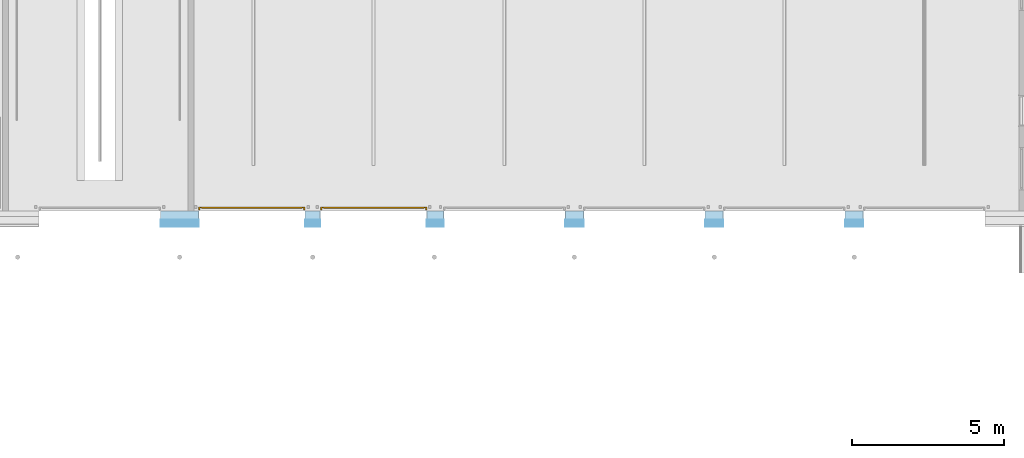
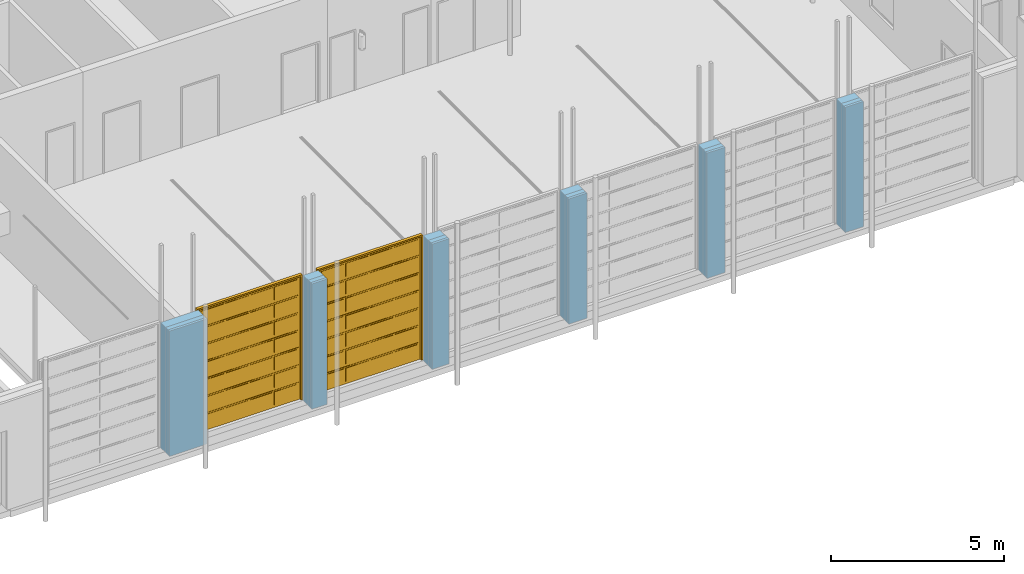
# One storey, part 27 of 112: 2 doors, 7 openings, 1 element without a shape of its own, plus 3 elements that do not belong to this part.
"""IFC2X3 building model written with IfcOpenShell, lengths in millimetres."""

import ifcopenshell
import ifcopenshell.guid

model = None  # the IFC model being written
_history = None  # IfcOwnerHistory: only IFC2X3 demands one
_inside = {}  # id of a spatial element -> (the spatial element, [elements in it])
_under = {}  # id of a project, library or spatial element -> (it, [spatial elements below it])
_declared = {}  # id of a project -> (the project, [libraries it declares])
_typed = {}  # id of a type object -> (the type object, [elements of that type])
_made_of = {}  # id of a material, layer set ... -> (it, [elements and type objects made of it])


def new_model(schema):
    """Start an empty IFC model of exactly this schema.

    Asked for "IFC4X3", IfcOpenShell would pick the latest addendum, in which some entities
    have other attributes; the version numbers below select the first issue.
    IFC2X3 requires an IfcOwnerHistory on every rooted entity: one is made here for all.
    """
    global model, _history
    if schema == "IFC4X3":
        model = ifcopenshell.file(schema_version=(4, 3, 0, 0))
    else:
        model = ifcopenshell.file(schema=schema)
    _inside.clear()
    _under.clear()
    _declared.clear()
    _typed.clear()
    _made_of.clear()
    _history = None
    if model.schema == "IFC2X3":
        org = make("IfcOrganization", Name="unknown")
        user = make(
            "IfcPersonAndOrganization",
            ThePerson=make("IfcPerson", FamilyName="unknown"),
            TheOrganization=org,
        )
        app = make(
            "IfcApplication",
            ApplicationDeveloper=org,
            Version="unknown",
            ApplicationFullName="unknown",
            ApplicationIdentifier="unknown",
        )
        _history = make(
            "IfcOwnerHistory",
            OwningUser=user,
            OwningApplication=app,
            ChangeAction="ADDED",
            CreationDate=0,
        )
    return model


def make(cls, **values):
    """One entity of the class cls with the attributes given. An attribute that is None is left unset."""
    return model.create_entity(
        cls, **{name: value for name, value in values.items() if value is not None}
    )


def entity(cls, *values):
    """Any entity or typed value of the class cls, its attributes in the order of the schema. None: left unset."""
    e = model.create_entity(cls)
    for i, value in enumerate(values):
        if value is not None:
            e[i] = value
    return e


def rooted(cls, **values):
    """An entity with a GlobalId (a new one), such as an element, a storey or a relation."""
    return make(cls, GlobalId=ifcopenshell.guid.new(), OwnerHistory=_history, **values)


def si_unit(unit_type, name, prefix=None):
    """IfcSIUnit, for example si_unit("LENGTHUNIT", "METRE", prefix="MILLI")."""
    return make("IfcSIUnit", UnitType=unit_type, Prefix=prefix, Name=name)


def converted_unit(unit_type, name, factor, base, dimensions=None, offset=None):
    """IfcConversionBasedUnit, such as the inch: factor (a typed value) times the base unit."""
    return make(
        "IfcConversionBasedUnit"
        if offset is None
        else "IfcConversionBasedUnitWithOffset",
        ConversionOffset=offset,
        Dimensions=None
        if dimensions is None
        else entity("IfcDimensionalExponents", *dimensions),
        UnitType=unit_type,
        Name=name,
        ConversionFactor=make(
            "IfcMeasureWithUnit", ValueComponent=factor, UnitComponent=base
        ),
    )


def derived_unit(unit_type, elements):
    """IfcDerivedUnit: a product of units, each with its exponent."""
    return make(
        "IfcDerivedUnit",
        Elements=[
            make("IfcDerivedUnitElement", Unit=unit, Exponent=power)
            for unit, power in elements
        ],
        UnitType=unit_type,
    )


def money_unit(currency):
    """IfcMonetaryUnit."""
    return make("IfcMonetaryUnit", Currency=currency)


def assignment(units):
    """IfcUnitAssignment: the units of a project."""
    return None if units is None else make("IfcUnitAssignment", Units=units)


def point(xyz):
    """IfcCartesianPoint."""
    return None if xyz is None else make("IfcCartesianPoint", Coordinates=xyz)


def direction(xyz):
    """IfcDirection."""
    return None if xyz is None else make("IfcDirection", DirectionRatios=xyz)


def frame(location, z_axis=None, x_axis=None):
    """IfcAxis2Placement3D, a coordinate frame: its origin and axes. An axis left out is left unset."""
    return make(
        "IfcAxis2Placement3D",
        Location=point(location),
        Axis=direction(z_axis),
        RefDirection=direction(x_axis),
    )


def frame_2d(location, x_axis=None):
    """IfcAxis2Placement2D, a coordinate frame in the plane: its origin and x axis."""
    return make(
        "IfcAxis2Placement2D", Location=point(location), RefDirection=direction(x_axis)
    )


def origin_with_axes():
    """The frame at (0, 0, 0) with the z axis (0, 0, 1) and the x axis (1, 0, 0) written out."""
    return frame((0.0, 0.0, 0.0), z_axis=(0.0, 0.0, 1.0), x_axis=(1.0, 0.0, 0.0))


def origin_2d_with_axis():
    """The frame at (0, 0) in the plane with the x axis (1, 0) written out."""
    return frame_2d((0.0, 0.0), x_axis=(1.0, 0.0))


def place(relative_to, where):
    """IfcLocalPlacement: puts the frame where relative to a parent placement (None: the world)."""
    return make(
        "IfcLocalPlacement", PlacementRelTo=relative_to, RelativePlacement=where
    )


def context(
    kind, dimensions, precision=None, world=None, true_north=None, identifier=None
):
    """IfcGeometricRepresentationContext, for example the 3D "Model" context."""
    return make(
        "IfcGeometricRepresentationContext",
        ContextIdentifier=identifier,
        ContextType=kind,
        CoordinateSpaceDimension=dimensions,
        Precision=precision,
        WorldCoordinateSystem=world,
        TrueNorth=true_north,
    )


def subcontext(parent, identifier, kind, view, scale=None):
    """IfcGeometricRepresentationSubContext, for example "Body" below "Model"."""
    return make(
        "IfcGeometricRepresentationSubContext",
        ContextIdentifier=identifier,
        ContextType=kind,
        ParentContext=parent,
        TargetScale=scale,
        TargetView=view,
    )


def project(units=None, contexts=None):
    """IfcProject with its units and contexts."""
    return rooted(
        "IfcProject",
        Name="project",
        RepresentationContexts=contexts,
        UnitsInContext=assignment(units),
    )


def spatial(cls, under=None, at=None, **own):
    """A site, building, storey or space (cls), placed at a placement, below another one or the project."""
    s = rooted(cls, ObjectPlacement=at, **own)
    if under is not None:
        _under.setdefault(under.id(), (under, []))[1].append(s)
    return s


def polyline(points):
    """IfcPolyline through the points."""
    return make("IfcPolyline", Points=[point(p) for p in points])


def profile(cls, at=None, kind="AREA", **sizes):
    """A parametric profile (cls). Its sizes go by their IFC names, for example OverallWidth=200.0."""
    return make(cls, ProfileType=kind, Position=at, **sizes)


def rectangle(**sizes):
    """IfcRectangleProfileDef."""
    return profile("IfcRectangleProfileDef", **sizes)


def outline(outer, holes=None, kind="AREA"):
    """IfcArbitraryClosedProfileDef: a profile drawn as a closed curve; with holes, ...WithVoids."""
    if holes is None:
        return make("IfcArbitraryClosedProfileDef", ProfileType=kind, OuterCurve=outer)
    return make(
        "IfcArbitraryProfileDefWithVoids",
        ProfileType=kind,
        OuterCurve=outer,
        InnerCurves=holes,
    )


def extrude(swept, where, along, depth):
    """IfcExtrudedAreaSolid: the profile swept, set in the frame where, extruded along a direction by depth."""
    return make(
        "IfcExtrudedAreaSolid",
        SweptArea=swept,
        Position=where,
        ExtrudedDirection=direction(along),
        Depth=depth,
    )


def faces_of(points, faces, orient=None, outer=None):
    """IfcFace entities. A face is a list of loops; a loop is a list of indices into points, from 0.

    orient and outer hold one flag for each loop. By default every Orientation is true, the
    first loop of a face is its IfcFaceOuterBound and the others are IfcFaceBound.
    """
    made = []
    for i, loops in enumerate(faces):
        bounds = []
        for j, loop in enumerate(loops):
            is_outer = j == 0 if outer is None else outer[i][j]
            bounds.append(
                make(
                    "IfcFaceOuterBound" if is_outer else "IfcFaceBound",
                    Bound=make("IfcPolyLoop", Polygon=[points[k] for k in loop]),
                    Orientation=True if orient is None else orient[i][j],
                )
            )
        made.append(make("IfcFace", Bounds=bounds))
    return made


def faceted_brep(points, faces, orient=None, outer=None, voids=None):
    """IfcFacetedBrep: a solid bounded by flat faces; with voids (closed shells), ...WithVoids."""
    shared = [point(p) for p in points]
    hull = make("IfcClosedShell", CfsFaces=faces_of(shared, faces, orient, outer))
    if voids is None:
        return make("IfcFacetedBrep", Outer=hull)
    return make(
        "IfcFacetedBrepWithVoids",
        Outer=hull,
        Voids=[
            make(cls, CfsFaces=faces_of(shared, fs, o, b)) for cls, fs, o, b in voids
        ],
    )


def shape(context_of_items, identifier, shape_type, items):
    """IfcShapeRepresentation: the items that make up one representation, for example the "Body"."""
    return make(
        "IfcShapeRepresentation",
        ContextOfItems=context_of_items,
        RepresentationIdentifier=identifier,
        RepresentationType=shape_type,
        Items=items,
    )


def source(mapping_origin, context_of_items, identifier, shape_type, items):
    """IfcRepresentationMap: a shape defined once, which mapped items show again and again."""
    return make(
        "IfcRepresentationMap",
        MappingOrigin=mapping_origin,
        MappedRepresentation=shape(context_of_items, identifier, shape_type, items),
    )


def transform(
    local_origin,
    x_axis=None,
    y_axis=None,
    z_axis=None,
    scale=None,
    scale2=None,
    scale3=None,
    uniform=True,
):
    """IfcCartesianTransformationOperator3D, or its non-uniform kind. x_axis, y_axis, z_axis: its Axis1, 2, 3."""
    if uniform:
        return make(
            "IfcCartesianTransformationOperator3D",
            Axis1=direction(x_axis),
            Axis2=direction(y_axis),
            LocalOrigin=point(local_origin),
            Scale=scale,
            Axis3=direction(z_axis),
        )
    return make(
        "IfcCartesianTransformationOperator3DnonUniform",
        Axis1=direction(x_axis),
        Axis2=direction(y_axis),
        LocalOrigin=point(local_origin),
        Scale=scale,
        Axis3=direction(z_axis),
        Scale2=scale2,
        Scale3=scale3,
    )


def mapped(mapping_source, mapping_target):
    """IfcMappedItem: shows the shape of a source again, moved by a transform."""
    return make(
        "IfcMappedItem", MappingSource=mapping_source, MappingTarget=mapping_target
    )


def material(Name=None, Category=None):
    """IfcMaterial."""
    return make("IfcMaterial", Name=Name, Category=Category)


def made_of(thing, what):
    """Note that an element or type object is made of a material, layer set ...; save() writes the relation."""
    if what is not None:
        _made_of.setdefault(what.id(), (what, []))[1].append(thing)
    return thing


def type_object(cls, material=None, **own):
    """A type object (cls), such as IfcWallType, which elements share."""
    return made_of(rooted(cls, **own), material)


def element(
    cls,
    number,
    at=None,
    inside=None,
    cuts=None,
    type_object=None,
    material=None,
    context=None,
    identifier="Body",
    shape_type=None,
    held_by="IfcProductDefinitionShape",
    body=None,
    shapes=None,
    **own,
):
    """One element of the class cls, such as IfcWall. Its Tag is "e" and its number.

    at: its placement. inside: the storey or other place that contains it. cuts: it is an
    opening in that element (IfcRelVoidsElement). A single representation is given by context,
    identifier, shape_type and body (its items); several are given by shapes. held_by: the class
    of the entity that holds the representations. save() writes the other relations.
    """
    e = rooted(cls, Tag="e%d" % number, ObjectPlacement=at, **own)
    if body is not None:
        shapes = [shape(context, identifier, shape_type, body)]
    if shapes is not None:
        e.Representation = make(held_by, Representations=shapes)
    if inside is not None:
        _inside.setdefault(inside.id(), (inside, []))[1].append(e)
    if cuts is not None:
        rooted(
            "IfcRelVoidsElement", RelatingBuildingElement=cuts, RelatedOpeningElement=e
        )
    if type_object is not None:
        _typed.setdefault(type_object.id(), (type_object, []))[1].append(e)
    return made_of(e, material)


def fill(opening, filler):
    """IfcRelFillsElement: the door or window that sits in an opening."""
    return rooted(
        "IfcRelFillsElement",
        RelatingOpeningElement=opening,
        RelatedBuildingElement=filler,
    )


def aggregate(whole, parts):
    """IfcRelAggregates: a whole, such as a stair, and the parts it consists of."""
    return rooted("IfcRelAggregates", RelatingObject=whole, RelatedObjects=parts)


def save(model, path):
    """Write the relations noted so far, then the file.

    IfcRelAggregates (storeys below a building ...), IfcRelContainedInSpatialStructure (elements
    in a storey), IfcRelDefinesByType, IfcRelAssociatesMaterial and IfcRelDeclares: one each for
    every whole, place, type object, material and project.
    """
    for whole, parts in _under.values():
        aggregate(whole, parts)
    for where, things in _inside.values():
        rooted(
            "IfcRelContainedInSpatialStructure",
            RelatedElements=things,
            RelatingStructure=where,
        )
    for kind, things in _typed.values():
        rooted("IfcRelDefinesByType", RelatedObjects=things, RelatingType=kind)
    for what, things in _made_of.values():
        rooted("IfcRelAssociatesMaterial", RelatedObjects=things, RelatingMaterial=what)
    for by, libraries in _declared.values():
        rooted("IfcRelDeclares", RelatingContext=by, RelatedDefinitions=libraries)
    model.write(path)


model = new_model("IFC2X3")

# Units and contexts
model_context = context("Model", 3, precision=0.01, world=origin_with_axes(), true_north=direction((0.0, 1.0)))
body_context = subcontext(model_context, "Body", "Model", "MODEL_VIEW")
ifc_project = project(units=[si_unit("LENGTHUNIT", "METRE", prefix="MILLI"), si_unit("AREAUNIT", "SQUARE_METRE"), si_unit("VOLUMEUNIT", "CUBIC_METRE"), converted_unit("PLANEANGLEUNIT", "DEGREE", entity("IfcPlaneAngleMeasure", 0.0174532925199), si_unit("PLANEANGLEUNIT", "RADIAN"), dimensions=[0, 0, 0, 0, 0, 0, 0]), si_unit("SOLIDANGLEUNIT", "STERADIAN"), money_unit("EUR"), converted_unit("TIMEUNIT", "Year", entity("IfcTimeMeasure", 31556926.0), si_unit("TIMEUNIT", "SECOND"), dimensions=[0, 0, 1, 0, 0, 0, 0]), si_unit("MASSUNIT", "GRAM", prefix="KILO"), si_unit("THERMODYNAMICTEMPERATUREUNIT", "DEGREE_CELSIUS"), si_unit("LUMINOUSINTENSITYUNIT", "LUMEN"), si_unit("ENERGYUNIT", "JOULE", prefix="MEGA"), derived_unit("THERMALCONDUCTANCEUNIT", [(si_unit("POWERUNIT", "WATT"), 1), (si_unit("LENGTHUNIT", "METRE"), -1), (si_unit("THERMODYNAMICTEMPERATUREUNIT", "KELVIN"), -1)]), derived_unit("SPECIFICHEATCAPACITYUNIT", [(si_unit("ENERGYUNIT", "JOULE"), 1), (si_unit("MASSUNIT", "GRAM", prefix="KILO"), -1), (si_unit("THERMODYNAMICTEMPERATUREUNIT", "KELVIN"), -1)]), derived_unit("MASSDENSITYUNIT", [(si_unit("MASSUNIT", "GRAM", prefix="KILO"), 1), (si_unit("VOLUMEUNIT", "CUBIC_METRE"), -1)])], contexts=[model_context])

# Site, building, storey
site_placement = place(None, origin_with_axes())
site = spatial("IfcSite", under=ifc_project, at=site_placement, Name="Politse- ja Piirivalveameti ning Päästeameti ühishoone", CompositionType="ELEMENT")
building_placement = place(site_placement, origin_with_axes())
building = spatial("IfcBuilding", under=site, at=building_placement, Name="Politse- ja Piirivalveameti ning Päästeameti ühishoone", CompositionType="ELEMENT")
storey_placement = place(building_placement, origin_with_axes())
storey = spatial("IfcBuildingStorey", under=building, at=storey_placement, Name="Esimene korrus", CompositionType="ELEMENT", Elevation=0.0)

# Door
door_style = type_object("IfcDoorStyle", Name="Vertical Sliding Garage Door 23", ConstructionType="NOTDEFINED", OperationType="ROLLINGUP", ParameterTakesPrecedence=False, Sizeable=False)
shared_shape = source(origin_with_axes(), body_context, "Body", "Brep", [
    faceted_brep([(1750.0, 0.0, 0.0), (1750.0, -100.0, 0.0), (1700.0, -100.0, 0.0), (1700.0, 0.0, 0.0), (1750.0, 0.0, 4350.0), (1750.0, -100.0, 4350.0), (1700.0, -100.0, 4350.0), (1700.0, 0.0, 4350.0)], [[[0, 1, 2, 3]], [[4, 5, 1, 0]], [[1, 5, 6, 2]], [[3, 2, 6, 7]], [[0, 3, 7, 4]], [[7, 6, 5, 4]]]),
    faceted_brep([(-1750.0, 0.0, 0.0), (-1750.0, -100.0, 0.0), (-1750.0, -100.0, 4350.0), (-1750.0, 0.0, 4350.0), (-1700.0, 0.0, 0.0), (-1700.0, -100.0, 0.0), (-1700.0, -100.0, 4350.0), (-1700.0, 0.0, 4350.0)], [[[0, 1, 2, 3]], [[4, 5, 1, 0]], [[1, 5, 6, 2]], [[3, 2, 6, 7]], [[0, 3, 7, 4]], [[7, 6, 5, 4]]]),
    faceted_brep([(1750.0, 0.0, 4400.0), (1750.0, -100.0, 4400.0), (1750.0, -100.0, 4350.0), (1750.0, 0.0, 4350.0), (-1750.0, 0.0, 4400.0), (-1750.0, -100.0, 4400.0), (-1750.0, -100.0, 4350.0), (-1700.0, -100.0, 4350.0), (1700.0, -100.0, 4350.0), (1700.0, 0.0, 4350.0), (-1700.0, 0.0, 4350.0), (-1750.0, 0.0, 4350.0)], [[[0, 1, 2, 3]], [[4, 5, 1, 0]], [[1, 5, 6, 7, 8, 2]], [[3, 2, 8, 9]], [[0, 3, 9, 10, 11, 4]], [[11, 6, 5, 4]], [[10, 7, 6, 11]], [[9, 8, 7, 10]]]),
    faceted_brep([(-1700.0, -5.5, 0.0), (1700.0, -5.5, 0.0), (1700.0, -35.5, 0.0), (-1700.0, -35.5, 0.0), (-1700.0, -5.5, 4350.0), (1700.0, -5.5, 4350.0), (1700.0, -35.5, 4350.0), (-1700.0, -35.5, 4350.0)], [[[0, 1, 2, 3]], [[0, 4, 5, 1]], [[1, 5, 6, 2]], [[3, 2, 6, 7]], [[4, 0, 3, 7]], [[5, 4, 7, 6]]]),
    faceted_brep([(1650.0, -35.5, 50.0), (-1650.0, -35.5, 50.0), (-1650.0, -35.5, 614.285714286), (1650.0, -35.5, 614.285714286), (1650.0, -45.5, 50.0), (-1650.0, -45.5, 50.0), (-1650.0, -45.5, 614.285714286), (1650.0, -45.5, 614.285714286)], [[[0, 1, 2, 3]], [[1, 0, 4, 5]], [[2, 1, 5, 6]], [[3, 2, 6, 7]], [[0, 3, 7, 4]], [[5, 4, 7, 6]]]),
    faceted_brep([(-837.5, -45.5, 100.0), (-1600.0, -45.5, 100.0), (-1600.0, -45.5, 564.285714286), (-837.5, -45.5, 564.285714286), (-837.5, -55.5, 100.0), (-1600.0, -55.5, 100.0), (-1600.0, -55.5, 564.285714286), (-837.5, -55.5, 564.285714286)], [[[0, 1, 2, 3]], [[1, 0, 4, 5]], [[2, 1, 5, 6]], [[3, 2, 6, 7]], [[0, 3, 7, 4]], [[5, 4, 7, 6]]]),
    faceted_brep([(-25.0, -45.5, 100.0), (-787.5, -45.5, 100.0), (-787.5, -45.5, 564.285714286), (-25.0, -45.5, 564.285714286), (-25.0, -55.5, 100.0), (-787.5, -55.5, 100.0), (-787.5, -55.5, 564.285714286), (-25.0, -55.5, 564.285714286)], [[[0, 1, 2, 3]], [[1, 0, 4, 5]], [[2, 1, 5, 6]], [[3, 2, 6, 7]], [[0, 3, 7, 4]], [[5, 4, 7, 6]]]),
    faceted_brep([(787.5, -45.5, 100.0), (25.0, -45.5, 100.0), (25.0, -45.5, 564.285714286), (787.5, -45.5, 564.285714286), (787.5, -55.5, 100.0), (25.0, -55.5, 100.0), (25.0, -55.5, 564.285714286), (787.5, -55.5, 564.285714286)], [[[0, 1, 2, 3]], [[1, 0, 4, 5]], [[2, 1, 5, 6]], [[3, 2, 6, 7]], [[0, 3, 7, 4]], [[5, 4, 7, 6]]]),
    faceted_brep([(1600.0, -45.5, 100.0), (837.5, -45.5, 100.0), (837.5, -45.5, 564.285714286), (1600.0, -45.5, 564.285714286), (1600.0, -55.5, 100.0), (837.5, -55.5, 100.0), (837.5, -55.5, 564.285714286), (1600.0, -55.5, 564.285714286)], [[[0, 1, 2, 3]], [[1, 0, 4, 5]], [[2, 1, 5, 6]], [[3, 2, 6, 7]], [[0, 3, 7, 4]], [[5, 4, 7, 6]]]),
    faceted_brep([(1650.0, -35.5, 664.285714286), (-1650.0, -35.5, 664.285714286), (-1650.0, -35.5, 1228.57142857), (1650.0, -35.5, 1228.57142857), (1650.0, -45.5, 664.285714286), (-1650.0, -45.5, 664.285714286), (-1650.0, -45.5, 1228.57142857), (1650.0, -45.5, 1228.57142857)], [[[0, 1, 2, 3]], [[1, 0, 4, 5]], [[2, 1, 5, 6]], [[3, 2, 6, 7]], [[0, 3, 7, 4]], [[5, 4, 7, 6]]]),
    faceted_brep([(-837.5, -45.5, 714.285714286), (-1600.0, -45.5, 714.285714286), (-1600.0, -45.5, 1178.57142857), (-837.5, -45.5, 1178.57142857), (-837.5, -55.5, 714.285714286), (-1600.0, -55.5, 714.285714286), (-1600.0, -55.5, 1178.57142857), (-837.5, -55.5, 1178.57142857)], [[[0, 1, 2, 3]], [[1, 0, 4, 5]], [[2, 1, 5, 6]], [[3, 2, 6, 7]], [[0, 3, 7, 4]], [[5, 4, 7, 6]]]),
    faceted_brep([(-25.0, -45.5, 714.285714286), (-787.5, -45.5, 714.285714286), (-787.5, -45.5, 1178.57142857), (-25.0, -45.5, 1178.57142857), (-25.0, -55.5, 714.285714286), (-787.5, -55.5, 714.285714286), (-787.5, -55.5, 1178.57142857), (-25.0, -55.5, 1178.57142857)], [[[0, 1, 2, 3]], [[1, 0, 4, 5]], [[2, 1, 5, 6]], [[3, 2, 6, 7]], [[0, 3, 7, 4]], [[5, 4, 7, 6]]]),
    faceted_brep([(787.5, -45.5, 714.285714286), (25.0, -45.5, 714.285714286), (25.0, -45.5, 1178.57142857), (787.5, -45.5, 1178.57142857), (787.5, -55.5, 714.285714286), (25.0, -55.5, 714.285714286), (25.0, -55.5, 1178.57142857), (787.5, -55.5, 1178.57142857)], [[[0, 1, 2, 3]], [[1, 0, 4, 5]], [[2, 1, 5, 6]], [[3, 2, 6, 7]], [[0, 3, 7, 4]], [[5, 4, 7, 6]]]),
    faceted_brep([(1600.0, -45.5, 714.285714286), (837.5, -45.5, 714.285714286), (837.5, -45.5, 1178.57142857), (1600.0, -45.5, 1178.57142857), (1600.0, -55.5, 714.285714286), (837.5, -55.5, 714.285714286), (837.5, -55.5, 1178.57142857), (1600.0, -55.5, 1178.57142857)], [[[0, 1, 2, 3]], [[1, 0, 4, 5]], [[2, 1, 5, 6]], [[3, 2, 6, 7]], [[0, 3, 7, 4]], [[5, 4, 7, 6]]]),
    faceted_brep([(1650.0, -35.5, 1278.57142857), (-1650.0, -35.5, 1278.57142857), (-1650.0, -35.5, 1842.85714286), (1650.0, -35.5, 1842.85714286), (1650.0, -45.5, 1278.57142857), (-1650.0, -45.5, 1278.57142857), (-1650.0, -45.5, 1842.85714286), (1650.0, -45.5, 1842.85714286)], [[[0, 1, 2, 3]], [[1, 0, 4, 5]], [[2, 1, 5, 6]], [[3, 2, 6, 7]], [[0, 3, 7, 4]], [[5, 4, 7, 6]]]),
    faceted_brep([(-837.5, -45.5, 1328.57142857), (-1600.0, -45.5, 1328.57142857), (-1600.0, -45.5, 1792.85714286), (-837.5, -45.5, 1792.85714286), (-837.5, -55.5, 1328.57142857), (-1600.0, -55.5, 1328.57142857), (-1600.0, -55.5, 1792.85714286), (-837.5, -55.5, 1792.85714286)], [[[0, 1, 2, 3]], [[1, 0, 4, 5]], [[2, 1, 5, 6]], [[3, 2, 6, 7]], [[0, 3, 7, 4]], [[5, 4, 7, 6]]]),
    faceted_brep([(-25.0, -45.5, 1328.57142857), (-787.5, -45.5, 1328.57142857), (-787.5, -45.5, 1792.85714286), (-25.0, -45.5, 1792.85714286), (-25.0, -55.5, 1328.57142857), (-787.5, -55.5, 1328.57142857), (-787.5, -55.5, 1792.85714286), (-25.0, -55.5, 1792.85714286)], [[[0, 1, 2, 3]], [[1, 0, 4, 5]], [[2, 1, 5, 6]], [[3, 2, 6, 7]], [[0, 3, 7, 4]], [[5, 4, 7, 6]]]),
    faceted_brep([(787.5, -45.5, 1328.57142857), (25.0, -45.5, 1328.57142857), (25.0, -45.5, 1792.85714286), (787.5, -45.5, 1792.85714286), (787.5, -55.5, 1328.57142857), (25.0, -55.5, 1328.57142857), (25.0, -55.5, 1792.85714286), (787.5, -55.5, 1792.85714286)], [[[0, 1, 2, 3]], [[1, 0, 4, 5]], [[2, 1, 5, 6]], [[3, 2, 6, 7]], [[0, 3, 7, 4]], [[5, 4, 7, 6]]]),
    faceted_brep([(1600.0, -45.5, 1328.57142857), (837.5, -45.5, 1328.57142857), (837.5, -45.5, 1792.85714286), (1600.0, -45.5, 1792.85714286), (1600.0, -55.5, 1328.57142857), (837.5, -55.5, 1328.57142857), (837.5, -55.5, 1792.85714286), (1600.0, -55.5, 1792.85714286)], [[[0, 1, 2, 3]], [[1, 0, 4, 5]], [[2, 1, 5, 6]], [[3, 2, 6, 7]], [[0, 3, 7, 4]], [[5, 4, 7, 6]]]),
    faceted_brep([(1650.0, -35.5, 1892.85714286), (-1650.0, -35.5, 1892.85714286), (-1650.0, -35.5, 2457.14285714), (1650.0, -35.5, 2457.14285714), (1650.0, -45.5, 1892.85714286), (-1650.0, -45.5, 1892.85714286), (-1650.0, -45.5, 2457.14285714), (1650.0, -45.5, 2457.14285714)], [[[0, 1, 2, 3]], [[1, 0, 4, 5]], [[2, 1, 5, 6]], [[3, 2, 6, 7]], [[0, 3, 7, 4]], [[5, 4, 7, 6]]]),
    faceted_brep([(-837.5, -45.5, 1942.85714286), (-1600.0, -45.5, 1942.85714286), (-1600.0, -45.5, 2407.14285714), (-837.5, -45.5, 2407.14285714), (-837.5, -55.5, 1942.85714286), (-1600.0, -55.5, 1942.85714286), (-1600.0, -55.5, 2407.14285714), (-837.5, -55.5, 2407.14285714)], [[[0, 1, 2, 3]], [[1, 0, 4, 5]], [[2, 1, 5, 6]], [[3, 2, 6, 7]], [[0, 3, 7, 4]], [[5, 4, 7, 6]]]),
    faceted_brep([(-25.0, -45.5, 1942.85714286), (-787.5, -45.5, 1942.85714286), (-787.5, -45.5, 2407.14285714), (-25.0, -45.5, 2407.14285714), (-25.0, -55.5, 1942.85714286), (-787.5, -55.5, 1942.85714286), (-787.5, -55.5, 2407.14285714), (-25.0, -55.5, 2407.14285714)], [[[0, 1, 2, 3]], [[1, 0, 4, 5]], [[2, 1, 5, 6]], [[3, 2, 6, 7]], [[0, 3, 7, 4]], [[5, 4, 7, 6]]]),
    faceted_brep([(787.5, -45.5, 1942.85714286), (25.0, -45.5, 1942.85714286), (25.0, -45.5, 2407.14285714), (787.5, -45.5, 2407.14285714), (787.5, -55.5, 1942.85714286), (25.0, -55.5, 1942.85714286), (25.0, -55.5, 2407.14285714), (787.5, -55.5, 2407.14285714)], [[[0, 1, 2, 3]], [[1, 0, 4, 5]], [[2, 1, 5, 6]], [[3, 2, 6, 7]], [[0, 3, 7, 4]], [[5, 4, 7, 6]]]),
    faceted_brep([(1600.0, -45.5, 1942.85714286), (837.5, -45.5, 1942.85714286), (837.5, -45.5, 2407.14285714), (1600.0, -45.5, 2407.14285714), (1600.0, -55.5, 1942.85714286), (837.5, -55.5, 1942.85714286), (837.5, -55.5, 2407.14285714), (1600.0, -55.5, 2407.14285714)], [[[0, 1, 2, 3]], [[1, 0, 4, 5]], [[2, 1, 5, 6]], [[3, 2, 6, 7]], [[0, 3, 7, 4]], [[5, 4, 7, 6]]]),
    faceted_brep([(1650.0, -35.5, 2507.14285714), (-1650.0, -35.5, 2507.14285714), (-1650.0, -35.5, 3071.42857143), (1650.0, -35.5, 3071.42857143), (1650.0, -45.5, 2507.14285714), (-1650.0, -45.5, 2507.14285714), (-1650.0, -45.5, 3071.42857143), (1650.0, -45.5, 3071.42857143)], [[[0, 1, 2, 3]], [[1, 0, 4, 5]], [[2, 1, 5, 6]], [[3, 2, 6, 7]], [[0, 3, 7, 4]], [[5, 4, 7, 6]]]),
    faceted_brep([(-837.5, -45.5, 2557.14285714), (-1600.0, -45.5, 2557.14285714), (-1600.0, -45.5, 3021.42857143), (-837.5, -45.5, 3021.42857143), (-837.5, -55.5, 2557.14285714), (-1600.0, -55.5, 2557.14285714), (-1600.0, -55.5, 3021.42857143), (-837.5, -55.5, 3021.42857143)], [[[0, 1, 2, 3]], [[1, 0, 4, 5]], [[2, 1, 5, 6]], [[3, 2, 6, 7]], [[0, 3, 7, 4]], [[5, 4, 7, 6]]]),
    faceted_brep([(-25.0, -45.5, 2557.14285714), (-787.5, -45.5, 2557.14285714), (-787.5, -45.5, 3021.42857143), (-25.0, -45.5, 3021.42857143), (-25.0, -55.5, 2557.14285714), (-787.5, -55.5, 2557.14285714), (-787.5, -55.5, 3021.42857143), (-25.0, -55.5, 3021.42857143)], [[[0, 1, 2, 3]], [[1, 0, 4, 5]], [[2, 1, 5, 6]], [[3, 2, 6, 7]], [[0, 3, 7, 4]], [[5, 4, 7, 6]]]),
    faceted_brep([(787.5, -45.5, 2557.14285714), (25.0, -45.5, 2557.14285714), (25.0, -45.5, 3021.42857143), (787.5, -45.5, 3021.42857143), (787.5, -55.5, 2557.14285714), (25.0, -55.5, 2557.14285714), (25.0, -55.5, 3021.42857143), (787.5, -55.5, 3021.42857143)], [[[0, 1, 2, 3]], [[1, 0, 4, 5]], [[2, 1, 5, 6]], [[3, 2, 6, 7]], [[0, 3, 7, 4]], [[5, 4, 7, 6]]]),
    faceted_brep([(1600.0, -45.5, 2557.14285714), (837.5, -45.5, 2557.14285714), (837.5, -45.5, 3021.42857143), (1600.0, -45.5, 3021.42857143), (1600.0, -55.5, 2557.14285714), (837.5, -55.5, 2557.14285714), (837.5, -55.5, 3021.42857143), (1600.0, -55.5, 3021.42857143)], [[[0, 1, 2, 3]], [[1, 0, 4, 5]], [[2, 1, 5, 6]], [[3, 2, 6, 7]], [[0, 3, 7, 4]], [[5, 4, 7, 6]]]),
    faceted_brep([(1650.0, -35.5, 3121.42857143), (-1650.0, -35.5, 3121.42857143), (-1650.0, -35.5, 3685.71428571), (1650.0, -35.5, 3685.71428571), (1650.0, -45.5, 3121.42857143), (-1650.0, -45.5, 3121.42857143), (-1650.0, -45.5, 3685.71428571), (1650.0, -45.5, 3685.71428571)], [[[0, 1, 2, 3]], [[1, 0, 4, 5]], [[2, 1, 5, 6]], [[3, 2, 6, 7]], [[0, 3, 7, 4]], [[5, 4, 7, 6]]]),
    faceted_brep([(-837.5, -45.5, 3171.42857143), (-1600.0, -45.5, 3171.42857143), (-1600.0, -45.5, 3635.71428571), (-837.5, -45.5, 3635.71428571), (-837.5, -55.5, 3171.42857143), (-1600.0, -55.5, 3171.42857143), (-1600.0, -55.5, 3635.71428571), (-837.5, -55.5, 3635.71428571)], [[[0, 1, 2, 3]], [[1, 0, 4, 5]], [[2, 1, 5, 6]], [[3, 2, 6, 7]], [[0, 3, 7, 4]], [[5, 4, 7, 6]]]),
    faceted_brep([(-25.0, -45.5, 3171.42857143), (-787.5, -45.5, 3171.42857143), (-787.5, -45.5, 3635.71428571), (-25.0, -45.5, 3635.71428571), (-25.0, -55.5, 3171.42857143), (-787.5, -55.5, 3171.42857143), (-787.5, -55.5, 3635.71428571), (-25.0, -55.5, 3635.71428571)], [[[0, 1, 2, 3]], [[1, 0, 4, 5]], [[2, 1, 5, 6]], [[3, 2, 6, 7]], [[0, 3, 7, 4]], [[5, 4, 7, 6]]]),
    faceted_brep([(787.5, -45.5, 3171.42857143), (25.0, -45.5, 3171.42857143), (25.0, -45.5, 3635.71428571), (787.5, -45.5, 3635.71428571), (787.5, -55.5, 3171.42857143), (25.0, -55.5, 3171.42857143), (25.0, -55.5, 3635.71428571), (787.5, -55.5, 3635.71428571)], [[[0, 1, 2, 3]], [[1, 0, 4, 5]], [[2, 1, 5, 6]], [[3, 2, 6, 7]], [[0, 3, 7, 4]], [[5, 4, 7, 6]]]),
    faceted_brep([(1600.0, -45.5, 3171.42857143), (837.5, -45.5, 3171.42857143), (837.5, -45.5, 3635.71428571), (1600.0, -45.5, 3635.71428571), (1600.0, -55.5, 3171.42857143), (837.5, -55.5, 3171.42857143), (837.5, -55.5, 3635.71428571), (1600.0, -55.5, 3635.71428571)], [[[0, 1, 2, 3]], [[1, 0, 4, 5]], [[2, 1, 5, 6]], [[3, 2, 6, 7]], [[0, 3, 7, 4]], [[5, 4, 7, 6]]]),
    faceted_brep([(1650.0, -35.5, 3735.71428571), (-1650.0, -35.5, 3735.71428571), (-1650.0, -35.5, 4300.0), (1650.0, -35.5, 4300.0), (1650.0, -45.5, 3735.71428571), (-1650.0, -45.5, 3735.71428571), (-1650.0, -45.5, 4300.0), (1650.0, -45.5, 4300.0)], [[[0, 1, 2, 3]], [[1, 0, 4, 5]], [[2, 1, 5, 6]], [[3, 2, 6, 7]], [[0, 3, 7, 4]], [[5, 4, 7, 6]]]),
    faceted_brep([(-837.5, -45.5, 3785.71428571), (-1600.0, -45.5, 3785.71428571), (-1600.0, -45.5, 4250.0), (-837.5, -45.5, 4250.0), (-837.5, -55.5, 3785.71428571), (-1600.0, -55.5, 3785.71428571), (-1600.0, -55.5, 4250.0), (-837.5, -55.5, 4250.0)], [[[0, 1, 2, 3]], [[1, 0, 4, 5]], [[2, 1, 5, 6]], [[3, 2, 6, 7]], [[0, 3, 7, 4]], [[5, 4, 7, 6]]]),
    faceted_brep([(-25.0, -45.5, 3785.71428571), (-787.5, -45.5, 3785.71428571), (-787.5, -45.5, 4250.0), (-25.0, -45.5, 4250.0), (-25.0, -55.5, 3785.71428571), (-787.5, -55.5, 3785.71428571), (-787.5, -55.5, 4250.0), (-25.0, -55.5, 4250.0)], [[[0, 1, 2, 3]], [[1, 0, 4, 5]], [[2, 1, 5, 6]], [[3, 2, 6, 7]], [[0, 3, 7, 4]], [[5, 4, 7, 6]]]),
    faceted_brep([(787.5, -45.5, 3785.71428571), (25.0, -45.5, 3785.71428571), (25.0, -45.5, 4250.0), (787.5, -45.5, 4250.0), (787.5, -55.5, 3785.71428571), (25.0, -55.5, 3785.71428571), (25.0, -55.5, 4250.0), (787.5, -55.5, 4250.0)], [[[0, 1, 2, 3]], [[1, 0, 4, 5]], [[2, 1, 5, 6]], [[3, 2, 6, 7]], [[0, 3, 7, 4]], [[5, 4, 7, 6]]]),
    faceted_brep([(1600.0, -45.5, 3785.71428571), (837.5, -45.5, 3785.71428571), (837.5, -45.5, 4250.0), (1600.0, -45.5, 4250.0), (1600.0, -55.5, 3785.71428571), (837.5, -55.5, 3785.71428571), (837.5, -55.5, 4250.0), (1600.0, -55.5, 4250.0)], [[[0, 1, 2, 3]], [[1, 0, 4, 5]], [[2, 1, 5, 6]], [[3, 2, 6, 7]], [[0, 3, 7, 4]], [[5, 4, 7, 6]]]),
])
wall_placement = place(storey_placement, frame((27759.7054661, 0.0, 0.0), z_axis=(0.0, 0.0, 1.0), x_axis=(1.0, 0.0, 0.0)))
opening_6_placement = place(wall_placement, frame((7000.00611111, 0.0, 0.0), z_axis=(0.0, 0.0, 1.0), x_axis=(1.0, 0.0, 0.0)))
door_1_placement = place(opening_6_placement, frame((-1750.0, 0.0, 0.0), z_axis=(0.0, 0.0, 1.0), x_axis=(1.0, 0.0, 0.0)))
door_1 = element("IfcDoor", 1, at=door_1_placement, inside=storey, type_object=door_style, Name="TV-03", ObjectType="DOOR", OverallHeight=4400.0, OverallWidth=3500.0, context=body_context, shape_type="MappedRepresentation", body=[
    mapped(shared_shape, transform((1750.0, 140.0, 0.0))),
])

opening_7_placement = place(wall_placement, frame((11000.4122228, 0.0, 0.0), z_axis=(0.0, 0.0, 1.0), x_axis=(1.0, 0.0, 0.0)))
door_2_placement = place(opening_7_placement, frame((-1750.0, 0.0, 0.0), z_axis=(0.0, 0.0, 1.0), x_axis=(1.0, 0.0, 0.0)))
door_2 = element("IfcDoor", 2, at=door_2_placement, inside=storey, type_object=door_style, Name="TV-03", ObjectType="DOOR", OverallHeight=4400.0, OverallWidth=3500.0, context=body_context, shape_type="MappedRepresentation", body=[
    mapped(shared_shape, transform((1750.0, 140.0, 0.0))),
])

# Wall, openings
wall_type = type_object("IfcWallType", Name="VS-14_välissein gar uste vahel 510", PredefinedType="NOTDEFINED")
wall = element("IfcWall", 3, at=wall_placement, inside=storey, type_object=wall_type, Name="VS-14")
opening_1_placement = place(wall_placement, frame((15300.8218484, 0.0, 0.0), z_axis=(0.0, 0.0, 1.0), x_axis=(1.0, 0.0, 0.0)))
element("IfcOpeningElement", 4, at=opening_1_placement, cuts=wall, Name="TV-02", context=body_context, shape_type="SweptSolid", body=[
    extrude(rectangle(XDim=4000.0, YDim=4400.0, at=origin_2d_with_axis()), frame((0.0, 40.0, 2200.0), z_axis=(0.0, -1.0, 0.0), x_axis=(-1.0, 0.0, 0.0)), (0.0, 0.0, 1.0), 1060.0),
    extrude(outline(polyline([(-2000.0, 8800.0), (-2000.0, 4400.0), (2000.0, 4400.0), (2000.0, 8800.0), (-2000.0, 8800.0)])), frame((0.0, 135.0, 0.0), z_axis=(0.0, 1.0, 0.0), x_axis=(-1.0, 0.0, 0.0)), (0.0, 0.0, -1.0), 45.0),
    extrude(rectangle(XDim=4000.0, YDim=4400.0, at=origin_2d_with_axis()), frame((0.0, 40.0, 2200.0), z_axis=(0.0, 1.0, 0.0), x_axis=(-1.0, 0.0, 0.0)), (0.0, 0.0, 1.0), 550.0),
])
opening_2_placement = place(wall_placement, frame((19900.8288762, 0.0, 0.0), z_axis=(0.0, 0.0, 1.0), x_axis=(1.0, 0.0, 0.0)))
element("IfcOpeningElement", 5, at=opening_2_placement, cuts=wall, Name="TV-02", context=body_context, shape_type="SweptSolid", body=[
    extrude(rectangle(XDim=4000.0, YDim=4400.0, at=origin_2d_with_axis()), frame((0.0, 40.0, 2200.0), z_axis=(0.0, -1.0, 0.0), x_axis=(-1.0, 0.0, 0.0)), (0.0, 0.0, 1.0), 1060.0),
    extrude(outline(polyline([(-2000.0, 8800.0), (-2000.0, 4400.0), (2000.0, 4400.0), (2000.0, 8800.0), (-2000.0, 8800.0)])), frame((0.0, 135.0, 0.0), z_axis=(0.0, 1.0, 0.0), x_axis=(-1.0, 0.0, 0.0)), (0.0, 0.0, -1.0), 45.0),
    extrude(rectangle(XDim=4000.0, YDim=4400.0, at=origin_2d_with_axis()), frame((0.0, 40.0, 2200.0), z_axis=(0.0, 1.0, 0.0), x_axis=(-1.0, 0.0, 0.0)), (0.0, 0.0, 1.0), 550.0),
])
opening_3_placement = place(wall_placement, frame((24500.835904, 0.0, 0.0), z_axis=(0.0, 0.0, 1.0), x_axis=(1.0, 0.0, 0.0)))
element("IfcOpeningElement", 6, at=opening_3_placement, cuts=wall, Name="TV-02", context=body_context, shape_type="SweptSolid", body=[
    extrude(rectangle(XDim=4000.0, YDim=4400.0, at=origin_2d_with_axis()), frame((0.0, 40.0, 2200.0), z_axis=(0.0, -1.0, 0.0), x_axis=(-1.0, 0.0, 0.0)), (0.0, 0.0, 1.0), 1060.0),
    extrude(outline(polyline([(-2000.0, 8800.0), (-2000.0, 4400.0), (2000.0, 4400.0), (2000.0, 8800.0), (-2000.0, 8800.0)])), frame((0.0, 135.0, 0.0), z_axis=(0.0, 1.0, 0.0), x_axis=(-1.0, 0.0, 0.0)), (0.0, 0.0, -1.0), 45.0),
    extrude(rectangle(XDim=4000.0, YDim=4400.0, at=origin_2d_with_axis()), frame((0.0, 40.0, 2200.0), z_axis=(0.0, 1.0, 0.0), x_axis=(-1.0, 0.0, 0.0)), (0.0, 0.0, 1.0), 550.0),
])
opening_4_placement = place(wall_placement, frame((29100.8429318, 0.0, 0.0), z_axis=(0.0, 0.0, 1.0), x_axis=(1.0, 0.0, 0.0)))
element("IfcOpeningElement", 7, at=opening_4_placement, cuts=wall, Name="TV-02", context=body_context, shape_type="SweptSolid", body=[
    extrude(rectangle(XDim=4000.0, YDim=4400.0, at=origin_2d_with_axis()), frame((0.0, 40.0, 2200.0), z_axis=(0.0, -1.0, 0.0), x_axis=(-1.0, 0.0, 0.0)), (0.0, 0.0, 1.0), 1060.0),
    extrude(outline(polyline([(-2000.0, 8800.0), (-2000.0, 4400.0), (2000.0, 4400.0), (2000.0, 8800.0), (-2000.0, 8800.0)])), frame((0.0, 135.0, 0.0), z_axis=(0.0, 1.0, 0.0), x_axis=(-1.0, 0.0, 0.0)), (0.0, 0.0, -1.0), 45.0),
    extrude(rectangle(XDim=4000.0, YDim=4400.0, at=origin_2d_with_axis()), frame((0.0, 40.0, 2200.0), z_axis=(0.0, 1.0, 0.0), x_axis=(-1.0, 0.0, 0.0)), (0.0, 0.0, 1.0), 550.0),
])
opening_5_placement = place(wall_placement, frame((2000.0, 0.0, 0.0), z_axis=(0.0, 0.0, 1.0), x_axis=(1.0, 0.0, 0.0)))
element("IfcOpeningElement", 8, at=opening_5_placement, cuts=wall, Name="TV-05", context=body_context, shape_type="SweptSolid", body=[
    extrude(rectangle(XDim=4000.0, YDim=4400.0, at=origin_2d_with_axis()), frame((0.0, 40.0, 2200.0), z_axis=(0.0, -1.0, 0.0), x_axis=(-1.0, 0.0, 0.0)), (0.0, 0.0, 1.0), 1060.0),
    extrude(outline(polyline([(-2000.0, 8800.0), (-2000.0, 4400.0), (2000.0, 4400.0), (2000.0, 8800.0), (-2000.0, 8800.0)])), frame((0.0, 135.0, 0.0), z_axis=(0.0, 1.0, 0.0), x_axis=(-1.0, 0.0, 0.0)), (0.0, 0.0, -1.0), 45.0),
    extrude(rectangle(XDim=4000.0, YDim=4400.0, at=origin_2d_with_axis()), frame((0.0, 40.0, 2200.0), z_axis=(0.0, 1.0, 0.0), x_axis=(-1.0, 0.0, 0.0)), (0.0, 0.0, 1.0), 550.0),
])
opening_6 = element("IfcOpeningElement", 9, at=opening_6_placement, cuts=wall, Name="TV-03", context=body_context, shape_type="SweptSolid", body=[
    extrude(rectangle(XDim=3500.0, YDim=4400.0, at=origin_2d_with_axis()), frame((0.0, 40.0, 2200.0), z_axis=(0.0, -1.0, 0.0), x_axis=(-1.0, 0.0, 0.0)), (0.0, 0.0, 1.0), 1060.0),
    extrude(outline(polyline([(-1750.0, 8800.0), (-1750.0, 4400.0), (1750.0, 4400.0), (1750.0, 8800.0), (-1750.0, 8800.0)])), frame((0.0, 135.0, 0.0), z_axis=(0.0, 1.0, 0.0), x_axis=(-1.0, 0.0, 0.0)), (0.0, 0.0, -1.0), 45.0),
    extrude(rectangle(XDim=3500.0, YDim=4400.0, at=origin_2d_with_axis()), frame((0.0, 40.0, 2200.0), z_axis=(0.0, 1.0, 0.0), x_axis=(-1.0, 0.0, 0.0)), (0.0, 0.0, 1.0), 550.0),
])

fill(opening_6, door_1)

# Opening
opening_7 = element("IfcOpeningElement", 10, at=opening_7_placement, cuts=wall, Name="TV-03", context=body_context, shape_type="SweptSolid", body=[
    extrude(rectangle(XDim=3500.0, YDim=4400.0, at=origin_2d_with_axis()), frame((0.0, 40.0, 2200.0), z_axis=(0.0, -1.0, 0.0), x_axis=(-1.0, 0.0, 0.0)), (0.0, 0.0, 1.0), 1060.0),
    extrude(outline(polyline([(-1750.0, 8800.0), (-1750.0, 4400.0), (1750.0, 4400.0), (1750.0, 8800.0), (-1750.0, 8800.0)])), frame((0.0, 135.0, 0.0), z_axis=(0.0, 1.0, 0.0), x_axis=(-1.0, 0.0, 0.0)), (0.0, 0.0, -1.0), 45.0),
    extrude(rectangle(XDim=3500.0, YDim=4400.0, at=origin_2d_with_axis()), frame((0.0, 40.0, 2200.0), z_axis=(0.0, 1.0, 0.0), x_axis=(-1.0, 0.0, 0.0)), (0.0, 0.0, 1.0), 550.0),
])

fill(opening_7, door_2)

# Building element part
ifc_material_1 = material(Name="KON-04_Betoon - Konstuktsioon")
building_element_part_1_placement = place(wall_placement, origin_with_axes())
building_element_part_1 = element("IfcBuildingElementPart", 11, at=building_element_part_1_placement, material=ifc_material_1, Name="KON-04_Betoon - Konstuktsioon", context=body_context, shape_type="SweptSolid", body=[
    extrude(outline(polyline([(0.0, -280.0), (31100.8429318, -280.0), (31100.8429318, 0.0), (0.0, 0.0), (0.0, -280.0)])), origin_with_axes(), (0.0, 0.0, 1.0), 4400.0),
])

ifc_material_2 = material(Name="SOJ-06_Soojustus - Plastik Kõva")
building_element_part_2_placement = place(wall_placement, origin_with_axes())
building_element_part_2 = element("IfcBuildingElementPart", 12, at=building_element_part_2_placement, material=ifc_material_2, Name="SOJ-06_Soojustus - Plastik Kõva", context=body_context, shape_type="SweptSolid", body=[
    extrude(outline(polyline([(0.0, -430.0), (31100.8429318, -430.0), (31100.8429318, -280.0), (0.0, -280.0), (0.0, -430.0)])), origin_with_axes(), (0.0, 0.0, 1.0), 4400.0),
])

building_element_part_3_placement = place(wall_placement, origin_with_axes())
building_element_part_3 = element("IfcBuildingElementPart", 13, at=building_element_part_3_placement, material=ifc_material_1, Name="KON-04_Betoon - Konstuktsioon", context=body_context, shape_type="SweptSolid", body=[
    extrude(outline(polyline([(0.0, -510.0), (31100.8429318, -510.0), (31100.8429318, -430.0), (0.0, -430.0), (0.0, -510.0)])), origin_with_axes(), (0.0, 0.0, 1.0), 4400.0),
])

aggregate(wall, [building_element_part_1, building_element_part_2, building_element_part_3])

save(model, "model.ifc")
